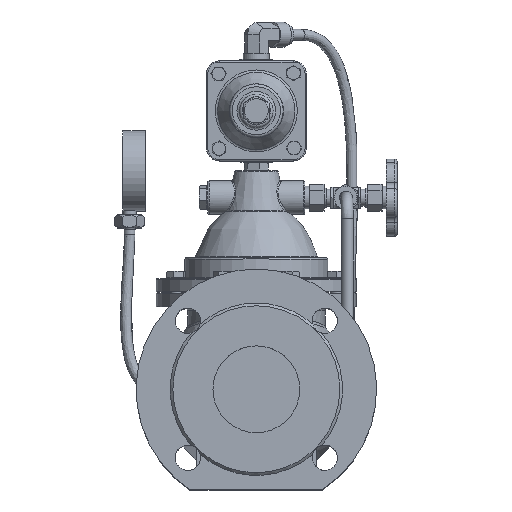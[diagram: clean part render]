
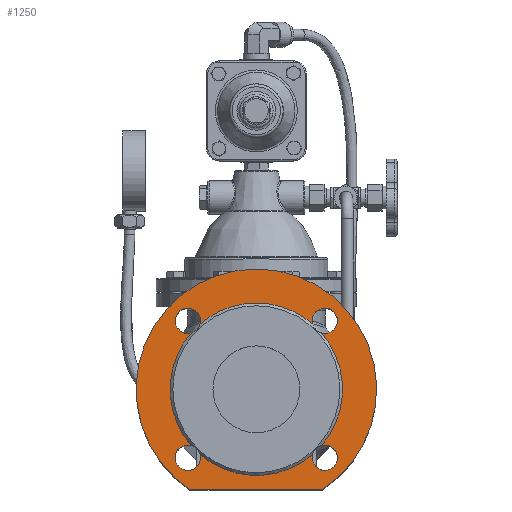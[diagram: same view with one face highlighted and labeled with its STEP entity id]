
A CAD part, top view. The second image highlights one B-rep face of the part: STEP entity #1250.
In plain terms, the highlighted planar face has unit normal (0, 0, 1).
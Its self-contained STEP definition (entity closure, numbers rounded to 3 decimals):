
#1250=ADVANCED_FACE('',(#22685,#22687),#22689,.T.);
#22685=FACE_BOUND('',#22686,.T.);
#22686=EDGE_LOOP('',(#42043,#42044));
#22687=FACE_BOUND('',#22688,.T.);
#22688=EDGE_LOOP('',(#42045,#42046,#42047,#42048,#42049,#42050,#42051,#42052,#42053,
#42054,#42055,#42056,#42057));
#22689=PLANE('',#22690);
#22690=AXIS2_PLACEMENT_3D('',#22691,#22692,#22693);
#22691=CARTESIAN_POINT('',(0.,0.,115.5));
#22692=DIRECTION('',(0.,0.,1.));
#22693=DIRECTION('',(0.,1.,0.));
#42043=ORIENTED_EDGE('',*,*,#58041,.T.);
#42044=ORIENTED_EDGE('',*,*,#58044,.F.);
#42045=ORIENTED_EDGE('',*,*,#58054,.T.);
#42046=ORIENTED_EDGE('',*,*,#58056,.T.);
#42047=ORIENTED_EDGE('',*,*,#58102,.T.);
#42048=ORIENTED_EDGE('',*,*,#58053,.T.);
#42049=ORIENTED_EDGE('',*,*,#58052,.T.);
#42050=ORIENTED_EDGE('',*,*,#58103,.T.);
#42051=ORIENTED_EDGE('',*,*,#58049,.T.);
#42052=ORIENTED_EDGE('',*,*,#58048,.T.);
#42053=ORIENTED_EDGE('',*,*,#58104,.T.);
#42054=ORIENTED_EDGE('',*,*,#58105,.T.);
#42055=ORIENTED_EDGE('',*,*,#58045,.T.);
#42056=ORIENTED_EDGE('',*,*,#58047,.T.);
#42057=ORIENTED_EDGE('',*,*,#58106,.T.);
#58041=EDGE_CURVE('',#61984,#61985,#61986,.T.);
#58044=EDGE_CURVE('',#61984,#61985,#61989,.T.);
#58045=EDGE_CURVE('',#61990,#61991,#61992,.F.);
#58047=EDGE_CURVE('',#61991,#61993,#61995,.F.);
#58048=EDGE_CURVE('',#61996,#61997,#61998,.F.);
#58049=EDGE_CURVE('',#61999,#61996,#62000,.F.);
#58052=EDGE_CURVE('',#62005,#62002,#62006,.F.);
#58053=EDGE_CURVE('',#62003,#62005,#62007,.F.);
#58054=EDGE_CURVE('',#62008,#62009,#62010,.F.);
#58056=EDGE_CURVE('',#62009,#62011,#62013,.F.);
#58102=EDGE_CURVE('',#62011,#62003,#62092,.T.);
#58103=EDGE_CURVE('',#62002,#61999,#62093,.T.);
#58104=EDGE_CURVE('',#61997,#62094,#62095,.T.);
#58105=EDGE_CURVE('',#62094,#61990,#62096,.T.);
#58106=EDGE_CURVE('',#61993,#62008,#62097,.T.);
#61984=VERTEX_POINT('',#76688);
#61985=VERTEX_POINT('',#76689);
#61986=LINE('',#76690,#76691);
#61989=CIRCLE('',#76699,90.);
#61990=VERTEX_POINT('',#76703);
#61991=VERTEX_POINT('',#76704);
#61992=CIRCLE('',#76705,9.5);
#61993=VERTEX_POINT('',#76709);
#61995=CIRCLE('',#76778,9.5);
#61996=VERTEX_POINT('',#76782);
#61997=VERTEX_POINT('',#76783);
#61998=CIRCLE('',#76784,9.5);
#61999=VERTEX_POINT('',#76788);
#62000=CIRCLE('',#76789,9.5);
#62002=VERTEX_POINT('',#76861);
#62003=VERTEX_POINT('',#76862);
#62005=VERTEX_POINT('',#76931);
#62006=CIRCLE('',#76932,9.5);
#62007=CIRCLE('',#76936,9.5);
#62008=VERTEX_POINT('',#76940);
#62009=VERTEX_POINT('',#76941);
#62010=CIRCLE('',#76942,9.5);
#62011=VERTEX_POINT('',#76946);
#62013=CIRCLE('',#77015,9.5);
#62092=CIRCLE('',#77558,64.5);
#62093=CIRCLE('',#77562,64.5);
#62094=VERTEX_POINT('',#77566);
#62095=CIRCLE('',#77567,64.5);
#62096=CIRCLE('',#77571,64.5);
#62097=CIRCLE('',#77575,64.5);
#76688=CARTESIAN_POINT('',(-49.749,-75.,115.5));
#76689=CARTESIAN_POINT('',(49.749,-75.,115.5));
#76690=CARTESIAN_POINT('',(-49.749,-75.,115.5));
#76691=VECTOR('',#76692,1.);
#76692=DIRECTION('',(1.,0.,0.));
#76699=AXIS2_PLACEMENT_3D('',#76700,#76701,#76702);
#76700=CARTESIAN_POINT('',(0.,0.,115.5));
#76701=DIRECTION('',(0.,0.,-1.));
#76702=DIRECTION('',(-0.553,-0.833,0.));
#76703=CARTESIAN_POINT('',(42.066,48.895,115.5));
#76704=CARTESIAN_POINT('',(60.765,51.265,115.5));
#76705=AXIS2_PLACEMENT_3D('',#76706,#76707,#76708);
#76706=CARTESIAN_POINT('',(51.265,51.265,115.5));
#76707=DIRECTION('',(0.,0.,1.));
#76708=DIRECTION('',(1.,0.,0.));
#76709=CARTESIAN_POINT('',(48.895,42.066,115.5));
#76778=AXIS2_PLACEMENT_3D('',#76779,#76780,#76781);
#76779=CARTESIAN_POINT('',(51.265,51.265,115.5));
#76780=DIRECTION('',(0.,0.,1.));
#76781=DIRECTION('',(-0.249,-0.968,0.));
#76782=CARTESIAN_POINT('',(-51.265,60.765,115.5));
#76783=CARTESIAN_POINT('',(-42.066,48.895,115.5));
#76784=AXIS2_PLACEMENT_3D('',#76785,#76786,#76787);
#76785=CARTESIAN_POINT('',(-51.265,51.265,115.5));
#76786=DIRECTION('',(0.,0.,1.));
#76787=DIRECTION('',(0.968,-0.249,0.));
#76788=CARTESIAN_POINT('',(-48.895,42.066,115.5));
#76789=AXIS2_PLACEMENT_3D('',#76790,#76791,#76792);
#76790=CARTESIAN_POINT('',(-51.265,51.265,115.5));
#76791=DIRECTION('',(0.,0.,1.));
#76792=DIRECTION('',(0.,1.,0.));
#76861=CARTESIAN_POINT('',(-48.895,-42.066,115.5));
#76862=CARTESIAN_POINT('',(-42.066,-48.895,115.5));
#76931=CARTESIAN_POINT('',(-60.765,-51.265,115.5));
#76932=AXIS2_PLACEMENT_3D('',#76933,#76934,#76935);
#76933=CARTESIAN_POINT('',(-51.265,-51.265,115.5));
#76934=DIRECTION('',(0.,0.,1.));
#76935=DIRECTION('',(0.249,0.968,0.));
#76936=AXIS2_PLACEMENT_3D('',#76937,#76938,#76939);
#76937=CARTESIAN_POINT('',(-51.265,-51.265,115.5));
#76938=DIRECTION('',(0.,0.,1.));
#76939=DIRECTION('',(-1.,0.,0.));
#76940=CARTESIAN_POINT('',(48.895,-42.066,115.5));
#76941=CARTESIAN_POINT('',(51.265,-60.765,115.5));
#76942=AXIS2_PLACEMENT_3D('',#76943,#76944,#76945);
#76943=CARTESIAN_POINT('',(51.265,-51.265,115.5));
#76944=DIRECTION('',(0.,0.,1.));
#76945=DIRECTION('',(0.,-1.,0.));
#76946=CARTESIAN_POINT('',(42.066,-48.895,115.5));
#77015=AXIS2_PLACEMENT_3D('',#77016,#77017,#77018);
#77016=CARTESIAN_POINT('',(51.265,-51.265,115.5));
#77017=DIRECTION('',(0.,0.,1.));
#77018=DIRECTION('',(-0.968,0.249,0.));
#77558=AXIS2_PLACEMENT_3D('',#77559,#77560,#77561);
#77559=CARTESIAN_POINT('',(0.,0.,115.5));
#77560=DIRECTION('',(0.,0.,-1.));
#77561=DIRECTION('',(0.652,-0.758,0.));
#77562=AXIS2_PLACEMENT_3D('',#77563,#77564,#77565);
#77563=CARTESIAN_POINT('',(0.,0.,115.5));
#77564=DIRECTION('',(0.,0.,-1.));
#77565=DIRECTION('',(-0.758,-0.652,0.));
#77566=CARTESIAN_POINT('',(0.,64.5,115.5));
#77567=AXIS2_PLACEMENT_3D('',#77568,#77569,#77570);
#77568=CARTESIAN_POINT('',(0.,0.,115.5));
#77569=DIRECTION('',(0.,0.,-1.));
#77570=DIRECTION('',(-0.652,0.758,0.));
#77571=AXIS2_PLACEMENT_3D('',#77572,#77573,#77574);
#77572=CARTESIAN_POINT('',(0.,0.,115.5));
#77573=DIRECTION('',(0.,0.,-1.));
#77574=DIRECTION('',(0.,1.,0.));
#77575=AXIS2_PLACEMENT_3D('',#77576,#77577,#77578);
#77576=CARTESIAN_POINT('',(0.,0.,115.5));
#77577=DIRECTION('',(0.,0.,-1.));
#77578=DIRECTION('',(0.758,0.652,0.));
